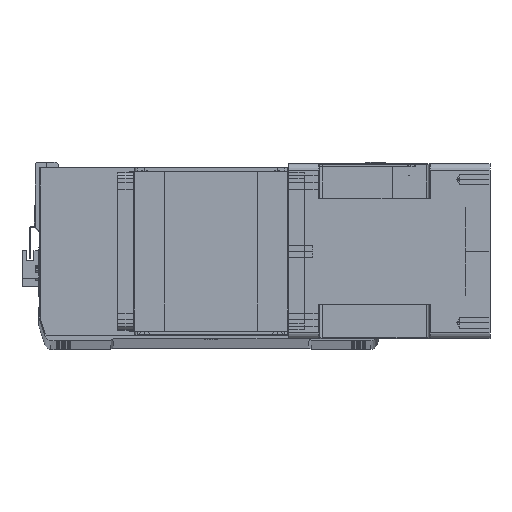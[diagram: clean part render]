
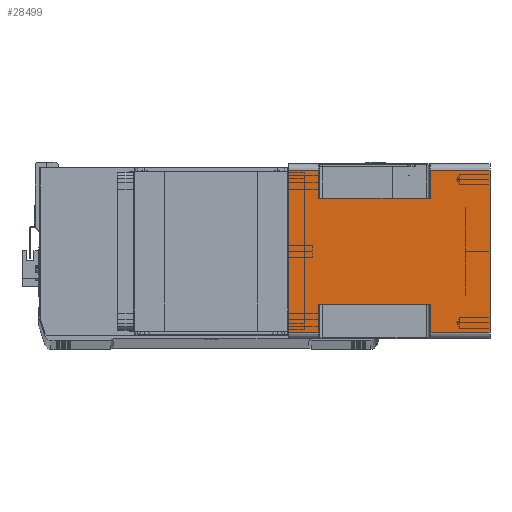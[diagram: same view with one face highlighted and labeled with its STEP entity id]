
A CAD part, top view. The second image highlights one B-rep face of the part: STEP entity #28499.
In plain terms, the highlighted planar face has unit normal (0, 0, 1) as drawn and (1, 0, 0) by its records, which use the part's own axes.
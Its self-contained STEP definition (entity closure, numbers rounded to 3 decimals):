
#93 = VERTEX_POINT ( 'NONE', #5887 ) ;
#887 = LINE ( 'NONE', #24250, #19394 ) ;
#1014 = VECTOR ( 'NONE', #36759, 1000. ) ;
#1058 = ORIENTED_EDGE ( 'NONE', *, *, #19481, .T. ) ;
#1081 = CARTESIAN_POINT ( 'NONE',  ( 71., -66., -164. ) ) ;
#1170 = VECTOR ( 'NONE', #4771, 1000. ) ;
#1173 = LINE ( 'NONE', #1081, #8400 ) ;
#1327 = VERTEX_POINT ( 'NONE', #6908 ) ;
#1459 = CARTESIAN_POINT ( 'NONE',  ( 71., 43., -164. ) ) ;
#1817 = CARTESIAN_POINT ( 'NONE',  ( 71., -66., 0. ) ) ;
#2170 = VECTOR ( 'NONE', #24925, 1000. ) ;
#2361 = CARTESIAN_POINT ( 'NONE',  ( 71., -66., -24.5 ) ) ;
#2447 = EDGE_CURVE ( 'NONE', #93, #17597, #13667, .T. ) ;
#2954 = EDGE_CURVE ( 'NONE', #17597, #1327, #21318, .T. ) ;
#3090 = ORIENTED_EDGE ( 'NONE', *, *, #34494, .F. ) ;
#4771 = DIRECTION ( 'NONE',  ( 0., 0., 1. ) ) ;
#5378 = VERTEX_POINT ( 'NONE', #22710 ) ;
#5381 = VERTEX_POINT ( 'NONE', #34236 ) ;
#5804 = CARTESIAN_POINT ( 'NONE',  ( 71., -66., -164. ) ) ;
#5887 = CARTESIAN_POINT ( 'NONE',  ( 71., 43., -24.5 ) ) ;
#6243 = ORIENTED_EDGE ( 'NONE', *, *, #9227, .F. ) ;
#6433 = LINE ( 'NONE', #13600, #10468 ) ;
#6720 = LINE ( 'NONE', #1459, #21172 ) ;
#6908 = CARTESIAN_POINT ( 'NONE',  ( 71., 66., 0. ) ) ;
#7118 = VERTEX_POINT ( 'NONE', #18272 ) ;
#7681 = VECTOR ( 'NONE', #34123, 1000. ) ;
#7840 = LINE ( 'NONE', #1817, #1014 ) ;
#7921 = EDGE_CURVE ( 'NONE', #18642, #12502, #34585, .T. ) ;
#8400 = VECTOR ( 'NONE', #19130, 1000. ) ;
#8521 = EDGE_LOOP ( 'NONE', ( #10634, #1058, #6243, #28433, #29390, #28685, #35196, #10293, #25015, #3090, #13429, #32680 ) ) ;
#8883 = LINE ( 'NONE', #22102, #1170 ) ;
#9227 = EDGE_CURVE ( 'NONE', #7118, #5381, #887, .T. ) ;
#9865 = LINE ( 'NONE', #18913, #2170 ) ;
#9909 = AXIS2_PLACEMENT_3D ( 'NONE', #5804, #29288, #17238 ) ;
#10293 = ORIENTED_EDGE ( 'NONE', *, *, #2447, .T. ) ;
#10448 = CARTESIAN_POINT ( 'NONE',  ( 71., -66., -115.5 ) ) ;
#10468 = VECTOR ( 'NONE', #37080, 1000. ) ;
#10634 = ORIENTED_EDGE ( 'NONE', *, *, #7921, .F. ) ;
#10753 = VERTEX_POINT ( 'NONE', #22147 ) ;
#11243 = EDGE_CURVE ( 'NONE', #5378, #20529, #8883, .T. ) ;
#11299 = LINE ( 'NONE', #10448, #7681 ) ;
#11966 = FACE_OUTER_BOUND ( 'NONE', #8521, .T. ) ;
#12502 = VERTEX_POINT ( 'NONE', #17477 ) ;
#12826 = DIRECTION ( 'NONE',  ( 0., 0., -1. ) ) ;
#13429 = ORIENTED_EDGE ( 'NONE', *, *, #11243, .F. ) ;
#13600 = CARTESIAN_POINT ( 'NONE',  ( 71., -43., -24.5 ) ) ;
#13601 = VECTOR ( 'NONE', #20497, 1000. ) ;
#13667 = LINE ( 'NONE', #2361, #19994 ) ;
#14340 = PLANE ( 'NONE',  #9909 ) ;
#15817 = CARTESIAN_POINT ( 'NONE',  ( 71., 66., -115.5 ) ) ;
#17238 = DIRECTION ( 'NONE',  ( 0., 1., 0. ) ) ;
#17477 = CARTESIAN_POINT ( 'NONE',  ( 71., -43., -24.5 ) ) ;
#17597 = VERTEX_POINT ( 'NONE', #30800 ) ;
#17836 = CARTESIAN_POINT ( 'NONE',  ( 71., 43., -115.5 ) ) ;
#18272 = CARTESIAN_POINT ( 'NONE',  ( 71., -66., -164. ) ) ;
#18642 = VERTEX_POINT ( 'NONE', #25411 ) ;
#18913 = CARTESIAN_POINT ( 'NONE',  ( 71., 66., -164. ) ) ;
#19130 = DIRECTION ( 'NONE',  ( 0., 1., 0. ) ) ;
#19394 = VECTOR ( 'NONE', #30050, 1000. ) ;
#19481 = EDGE_CURVE ( 'NONE', #18642, #5381, #11299, .T. ) ;
#19994 = VECTOR ( 'NONE', #37310, 1000. ) ;
#20497 = DIRECTION ( 'NONE',  ( 0., 0., 1. ) ) ;
#20529 = VERTEX_POINT ( 'NONE', #28390 ) ;
#20772 = DIRECTION ( 'NONE',  ( 0., -1., 0. ) ) ;
#21172 = VECTOR ( 'NONE', #12826, 1000. ) ;
#21318 = LINE ( 'NONE', #32198, #13601 ) ;
#22102 = CARTESIAN_POINT ( 'NONE',  ( 71., -66., -164. ) ) ;
#22147 = CARTESIAN_POINT ( 'NONE',  ( 71., 66., -164. ) ) ;
#22710 = CARTESIAN_POINT ( 'NONE',  ( 71., -66., -24.5 ) ) ;
#23088 = EDGE_CURVE ( 'NONE', #7118, #10753, #1173, .T. ) ;
#24250 = CARTESIAN_POINT ( 'NONE',  ( 71., -66., -164. ) ) ;
#24925 = DIRECTION ( 'NONE',  ( 0., 0., 1. ) ) ;
#25015 = ORIENTED_EDGE ( 'NONE', *, *, #2954, .T. ) ;
#25411 = CARTESIAN_POINT ( 'NONE',  ( 71., -43., -115.5 ) ) ;
#25689 = EDGE_CURVE ( 'NONE', #10753, #34356, #9865, .T. ) ;
#25797 = EDGE_CURVE ( 'NONE', #5378, #12502, #6433, .T. ) ;
#26315 = LINE ( 'NONE', #17836, #34008 ) ;
#26863 = VECTOR ( 'NONE', #29240, 1000. ) ;
#26882 = EDGE_CURVE ( 'NONE', #93, #29909, #6720, .T. ) ;
#28390 = CARTESIAN_POINT ( 'NONE',  ( 71., -66., 0. ) ) ;
#28433 = ORIENTED_EDGE ( 'NONE', *, *, #23088, .T. ) ;
#28499 = ADVANCED_FACE ( 'NONE', ( #11966 ), #14340, .T. ) ;
#28685 = ORIENTED_EDGE ( 'NONE', *, *, #35342, .T. ) ;
#29240 = DIRECTION ( 'NONE',  ( 0., 0., 1. ) ) ;
#29288 = DIRECTION ( 'NONE',  ( 1., 0., 0. ) ) ;
#29303 = CARTESIAN_POINT ( 'NONE',  ( 71., 43., -115.5 ) ) ;
#29390 = ORIENTED_EDGE ( 'NONE', *, *, #25689, .T. ) ;
#29909 = VERTEX_POINT ( 'NONE', #29303 ) ;
#30050 = DIRECTION ( 'NONE',  ( 0., 0., 1. ) ) ;
#30800 = CARTESIAN_POINT ( 'NONE',  ( 71., 66., -24.5 ) ) ;
#32198 = CARTESIAN_POINT ( 'NONE',  ( 71., 66., -164. ) ) ;
#32680 = ORIENTED_EDGE ( 'NONE', *, *, #25797, .T. ) ;
#34008 = VECTOR ( 'NONE', #20772, 1000. ) ;
#34123 = DIRECTION ( 'NONE',  ( 0., -1., 0. ) ) ;
#34236 = CARTESIAN_POINT ( 'NONE',  ( 71., -66., -115.5 ) ) ;
#34356 = VERTEX_POINT ( 'NONE', #15817 ) ;
#34494 = EDGE_CURVE ( 'NONE', #20529, #1327, #7840, .T. ) ;
#34585 = LINE ( 'NONE', #36276, #26863 ) ;
#35196 = ORIENTED_EDGE ( 'NONE', *, *, #26882, .F. ) ;
#35342 = EDGE_CURVE ( 'NONE', #34356, #29909, #26315, .T. ) ;
#36276 = CARTESIAN_POINT ( 'NONE',  ( 71., -43., -164. ) ) ;
#36759 = DIRECTION ( 'NONE',  ( 0., 1., 0. ) ) ;
#37080 = DIRECTION ( 'NONE',  ( 0., 1., 0. ) ) ;
#37310 = DIRECTION ( 'NONE',  ( 0., 1., 0. ) ) ;
